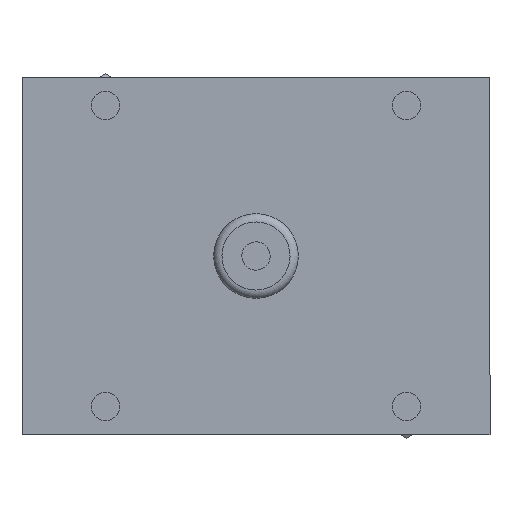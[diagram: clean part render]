
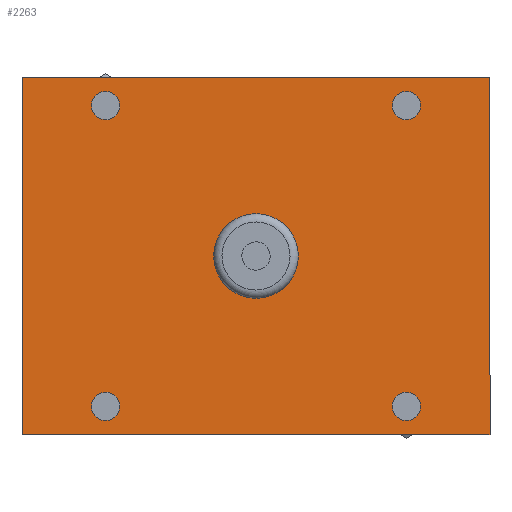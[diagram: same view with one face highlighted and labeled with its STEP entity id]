
A CAD part, front view. The second image highlights one B-rep face of the part: STEP entity #2263.
In plain terms, the highlighted planar face has unit normal (0, -1, 0).
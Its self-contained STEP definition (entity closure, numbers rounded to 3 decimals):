
#2153=CARTESIAN_POINT('',(0.,0.,-9.936));
#2154=VERTEX_POINT('',#2153);
#2155=CARTESIAN_POINT('',(0.,0.0,0.));
#2156=DIRECTION('',(0.0,1.0,0.0));
#2157=DIRECTION('',(0.0,0.0,1.0));
#2158=AXIS2_PLACEMENT_3D('',#2155,#2156,#2157);
#2159=CIRCLE('',#2158,9.936);
#2160=EDGE_CURVE('',#2154,#2154,#2159,.T.);
#2177=CARTESIAN_POINT('',(0.,0.,0.));
#2178=DIRECTION('',(0.0,1.0,0.0));
#2179=DIRECTION('',(0.0,0.0,-1.0));
#2180=AXIS2_PLACEMENT_3D('',#2177,#2178,#2179);
#2181=PLANE('',#2180);
#2182=CARTESIAN_POINT('',(-55.,0.,42.));
#2183=VERTEX_POINT('',#2182);
#2184=CARTESIAN_POINT('',(-55.,0.,-42.));
#2185=VERTEX_POINT('',#2184);
#2186=CARTESIAN_POINT('',(-55.,0.,42.));
#2187=DIRECTION('',(0.0,0.0,-1.0));
#2188=VECTOR('',#2187,84.);
#2189=LINE('',#2186,#2188);
#2190=EDGE_CURVE('',#2183,#2185,#2189,.T.);
#2191=ORIENTED_EDGE('',*,*,#2190,.T.);
#2192=CARTESIAN_POINT('',(55.,0.,-42.));
#2193=VERTEX_POINT('',#2192);
#2194=CARTESIAN_POINT('',(-55.,0.,-42.));
#2195=DIRECTION('',(1.0,0.0,0.0));
#2196=VECTOR('',#2195,110.);
#2197=LINE('',#2194,#2196);
#2198=EDGE_CURVE('',#2185,#2193,#2197,.T.);
#2199=ORIENTED_EDGE('',*,*,#2198,.T.);
#2200=CARTESIAN_POINT('',(55.,0.,42.));
#2201=VERTEX_POINT('',#2200);
#2202=CARTESIAN_POINT('',(55.,0.,-42.));
#2203=DIRECTION('',(0.0,0.0,1.0));
#2204=VECTOR('',#2203,84.0);
#2205=LINE('',#2202,#2204);
#2206=EDGE_CURVE('',#2193,#2201,#2205,.T.);
#2207=ORIENTED_EDGE('',*,*,#2206,.T.);
#2208=CARTESIAN_POINT('',(55.,0.,42.));
#2209=DIRECTION('',(-1.0,0.0,0.0));
#2210=VECTOR('',#2209,110.0);
#2211=LINE('',#2208,#2210);
#2212=EDGE_CURVE('',#2201,#2183,#2211,.T.);
#2213=ORIENTED_EDGE('',*,*,#2212,.T.);
#2214=EDGE_LOOP('',(#2191,#2199,#2207,#2213));
#2215=FACE_OUTER_BOUND('',#2214,.T.);
#2216=CARTESIAN_POINT('',(-35.355,0.,-32.032));
#2217=VERTEX_POINT('',#2216);
#2218=CARTESIAN_POINT('',(-35.355,0.,-35.355));
#2219=DIRECTION('',(0.0,1.0,0.0));
#2220=DIRECTION('',(0.0,0.0,1.0));
#2221=AXIS2_PLACEMENT_3D('',#2218,#2219,#2220);
#2222=CIRCLE('',#2221,3.324);
#2223=EDGE_CURVE('',#2217,#2217,#2222,.T.);
#2224=ORIENTED_EDGE('',*,*,#2223,.T.);
#2225=EDGE_LOOP('',(#2224));
#2226=FACE_BOUND('',#2225,.T.);
#2227=CARTESIAN_POINT('',(35.355,0.,-32.032));
#2228=VERTEX_POINT('',#2227);
#2229=CARTESIAN_POINT('',(35.355,0.,-35.355));
#2230=DIRECTION('',(0.0,1.0,0.0));
#2231=DIRECTION('',(0.0,0.0,1.0));
#2232=AXIS2_PLACEMENT_3D('',#2229,#2230,#2231);
#2233=CIRCLE('',#2232,3.324);
#2234=EDGE_CURVE('',#2228,#2228,#2233,.T.);
#2235=ORIENTED_EDGE('',*,*,#2234,.T.);
#2236=EDGE_LOOP('',(#2235));
#2237=FACE_BOUND('',#2236,.T.);
#2238=CARTESIAN_POINT('',(35.355,0.,38.679));
#2239=VERTEX_POINT('',#2238);
#2240=CARTESIAN_POINT('',(35.355,0.,35.355));
#2241=DIRECTION('',(0.0,1.0,0.0));
#2242=DIRECTION('',(0.0,0.0,1.0));
#2243=AXIS2_PLACEMENT_3D('',#2240,#2241,#2242);
#2244=CIRCLE('',#2243,3.324);
#2245=EDGE_CURVE('',#2239,#2239,#2244,.T.);
#2246=ORIENTED_EDGE('',*,*,#2245,.T.);
#2247=EDGE_LOOP('',(#2246));
#2248=FACE_BOUND('',#2247,.T.);
#2249=CARTESIAN_POINT('',(-35.355,0.,38.679));
#2250=VERTEX_POINT('',#2249);
#2251=CARTESIAN_POINT('',(-35.355,0.,35.355));
#2252=DIRECTION('',(0.0,1.0,0.0));
#2253=DIRECTION('',(0.0,0.0,1.0));
#2254=AXIS2_PLACEMENT_3D('',#2251,#2252,#2253);
#2255=CIRCLE('',#2254,3.324);
#2256=EDGE_CURVE('',#2250,#2250,#2255,.T.);
#2257=ORIENTED_EDGE('',*,*,#2256,.T.);
#2258=EDGE_LOOP('',(#2257));
#2259=FACE_BOUND('',#2258,.T.);
#2260=ORIENTED_EDGE('',*,*,#2160,.T.);
#2261=EDGE_LOOP('',(#2260));
#2262=FACE_BOUND('',#2261,.T.);
#2263=ADVANCED_FACE('',(#2215,#2226,#2237,#2248,#2259,#2262),#2181,.F.);
